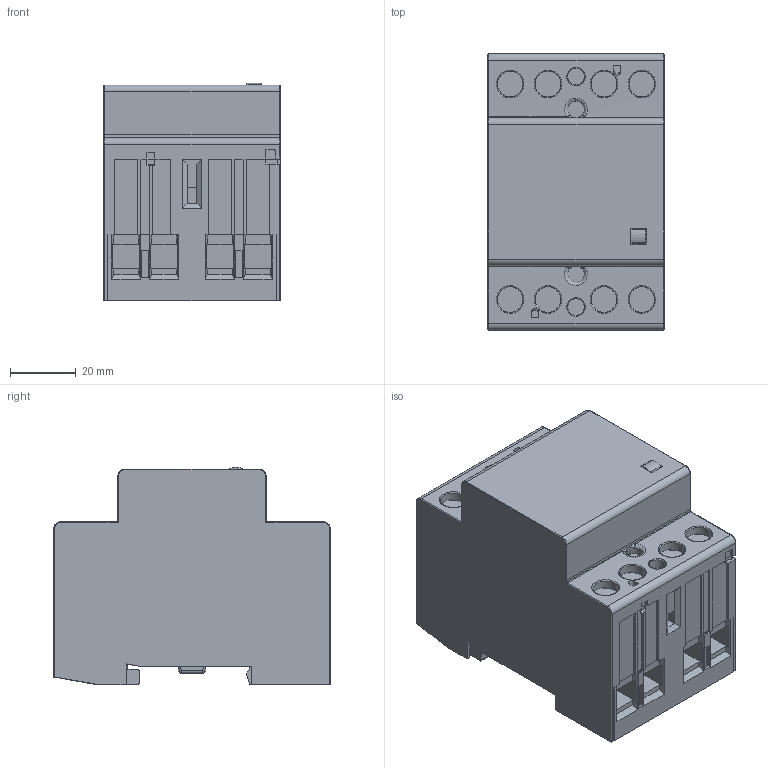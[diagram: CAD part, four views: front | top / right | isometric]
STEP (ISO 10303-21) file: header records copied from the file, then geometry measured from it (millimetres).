
FILE_DESCRIPTION (( 'STEP AP214' ), '1' );
FILE_NAME ('RIC40.STEP', '2024-04-15T09:02:53', ( '' ), ( '' ), 'SwSTEP 2.0', 'SolidWorks 2022', '' );
FILE_SCHEMA (( 'AUTOMOTIVE_DESIGN' ));
Length unit declared in the file: millimetre
Products named in the file (1): RIC40
Bounding box: 53.5 x 84.4 x 65.98 mm (x, y, z)
Volume: 235456.9 mm3; surface area: 45116.9 mm2
Topology: 1 solids, 11 shells, 1235 faces, 3461 edges, 2264 vertices
Faces by surface type: plane 1014, cylinder 173, bspline 42, cone 6
Entity records: 54314 total; most frequent: CARTESIAN_POINT 9370, ORIENTED_EDGE 6904, DIRECTION 6170, EDGE_CURVE 3452, VECTOR 2946, LINE 2946, VERTEX_POINT 2262, AXIS2_PLACEMENT_3D 1612
